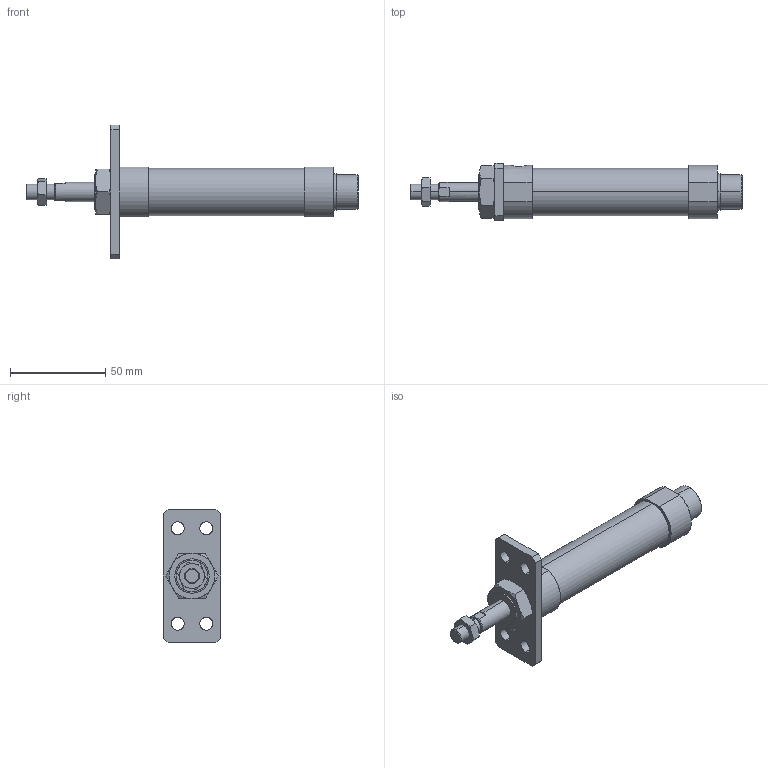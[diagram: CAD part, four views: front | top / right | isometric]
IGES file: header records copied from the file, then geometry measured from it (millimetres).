
Start section: SolidWorks IGES file using analytic representation for surfaces
Global section: file name: C:\Users\Toshiba\Desktop\J#0-20-15-A.IGS; native system: SolidWorks 2014; preprocessor: SolidWorks 2014; author: Toshiba; date: 160308.141421; units: millimetre
Bounding box: 174 x 30 x 70 mm (x, y, z)
Surface area: 20324.7 mm2 (no closed solid volume)
Topology: 0 solids, 0 shells, 109 faces, 1922 edges, 1922 vertices
Faces by surface type: bspline 69, revolution 40
